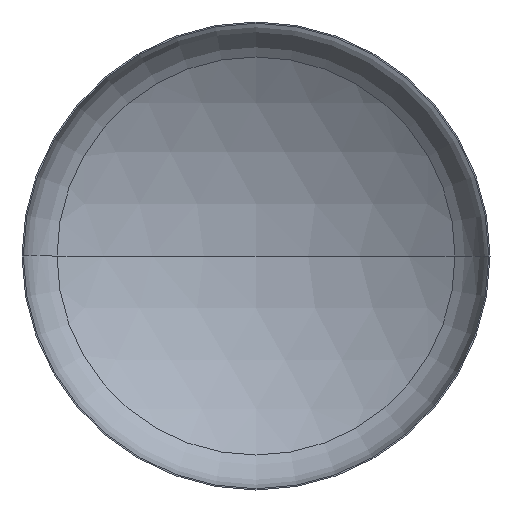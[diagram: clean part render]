
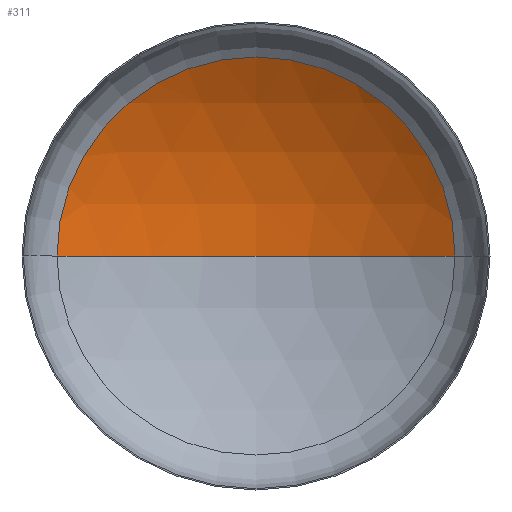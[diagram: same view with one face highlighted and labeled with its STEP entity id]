
A CAD part, front view. The second image highlights one B-rep face of the part: STEP entity #311.
In plain terms, the highlighted spherical face has radius 4400 mm.
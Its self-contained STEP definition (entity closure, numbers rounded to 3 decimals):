
#3 = ORIENTED_EDGE ( 'NONE', *, *, #30, .F. ) ;
#14 = EDGE_CURVE ( 'NONE', #26, #250, #265, .T. ) ;
#22 = EDGE_CURVE ( 'NONE', #281, #26, #406, .T. ) ;
#24 = CARTESIAN_POINT ( 'NONE',  ( 0., 760.687, 0. ) ) ;
#26 = VERTEX_POINT ( 'NONE', #206 ) ;
#30 = EDGE_CURVE ( 'NONE', #281, #250, #254, .T. ) ;
#37 = AXIS2_PLACEMENT_3D ( 'NONE', #335, #363, #225 ) ;
#47 = ORIENTED_EDGE ( 'NONE', *, *, #14, .T. ) ;
#49 = EDGE_LOOP ( 'NONE', ( #3, #164, #47 ) ) ;
#63 = DIRECTION ( 'NONE',  ( 1., 0., 0. ) ) ;
#64 = CARTESIAN_POINT ( 'NONE',  ( 0., -2965.967, 0. ) ) ;
#92 = CARTESIAN_POINT ( 'NONE',  ( 0., 1434.033, 0. ) ) ;
#108 = DIRECTION ( 'NONE',  ( 1., 0., 0. ) ) ;
#130 = CARTESIAN_POINT ( 'NONE',  ( -2339.241, 760.687, 0. ) ) ;
#147 = DIRECTION ( 'NONE',  ( 0., 0., -1. ) ) ;
#164 = ORIENTED_EDGE ( 'NONE', *, *, #22, .T. ) ;
#198 = SPHERICAL_SURFACE ( 'NONE', #37, 4400. ) ;
#206 = CARTESIAN_POINT ( 'NONE',  ( 2339.241, 760.687, 0. ) ) ;
#225 = DIRECTION ( 'NONE',  ( -1., 0., 0. ) ) ;
#250 = VERTEX_POINT ( 'NONE', #130 ) ;
#254 = CIRCLE ( 'NONE', #266, 4400. ) ;
#256 = DIRECTION ( 'NONE',  ( 0., -1., 0. ) ) ;
#265 = CIRCLE ( 'NONE', #283, 2339.241 ) ;
#266 = AXIS2_PLACEMENT_3D ( 'NONE', #64, #287, #108 ) ;
#278 = AXIS2_PLACEMENT_3D ( 'NONE', #314, #147, #342 ) ;
#281 = VERTEX_POINT ( 'NONE', #92 ) ;
#283 = AXIS2_PLACEMENT_3D ( 'NONE', #24, #256, #63 ) ;
#287 = DIRECTION ( 'NONE',  ( 0., 0., 1. ) ) ;
#311 = ADVANCED_FACE ( 'NONE', ( #344 ), #198, .F. ) ;
#314 = CARTESIAN_POINT ( 'NONE',  ( 0., -2965.967, 0. ) ) ;
#335 = CARTESIAN_POINT ( 'NONE',  ( 0., -2965.967, 0. ) ) ;
#342 = DIRECTION ( 'NONE',  ( -1., 0., 0. ) ) ;
#344 = FACE_OUTER_BOUND ( 'NONE', #49, .T. ) ;
#363 = DIRECTION ( 'NONE',  ( 0., 0., -1. ) ) ;
#406 = CIRCLE ( 'NONE', #278, 4400. ) ;
